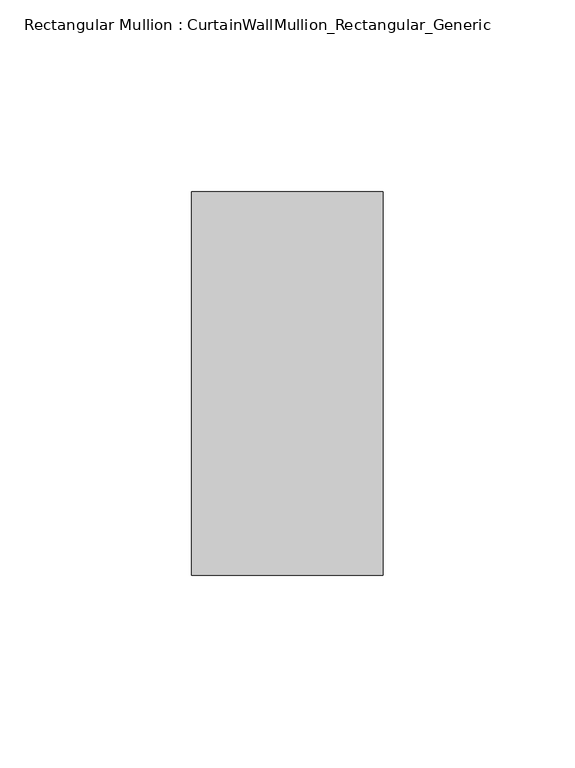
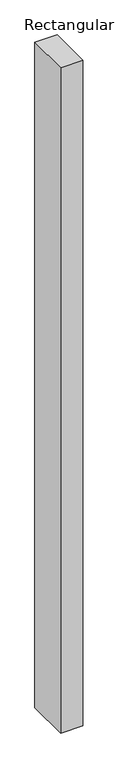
"""IFC4 building model written with IfcOpenShell, lengths in millimetres: member geometry, Rectangular Mullion : CurtainWallMullion_Rectangular_Generic."""

from ifc_helpers import new_model, si_unit, frame, origin, place, context, project, spatial, polyline, outline, extrude, source, transform, mapped, element, save


def rectangular_mullion_curtainwallmullion_rectangular_generic_58e5e5d2(model_context):
    return source(origin(), model_context, "Body", "SweptSolid", [
        extrude(outline(polyline([(0.0, 50.0), (0.0, -50.0), (-50.0, -50.0), (-50.0, 50.0), (0.0, 50.0)])), frame((0.0, 0.0, -1586.1111113), z_axis=(0.0, 0.0, 1.0), x_axis=(1.0, 0.0, 0.0)), (0.0, 0.0, 1.0), 1586.1111113),
    ])


if __name__ == "__main__":
    model = new_model("IFC4")
    model_context = context("Model", 3, world=origin())
    ifc_project = project(units=[si_unit("LENGTHUNIT", "METRE", prefix="MILLI")], contexts=[model_context])
    site = spatial("IfcSite", under=ifc_project)
    building = spatial("IfcBuilding", under=site)
    placement = place(None, origin())
    rectangular_mullion_curtainwallmullion_rectangular_generic_shape = rectangular_mullion_curtainwallmullion_rectangular_generic_58e5e5d2(model_context)
    element("IfcMember", 1, ObjectType="Rectangular Mullion : CurtainWallMullion_Rectangular_Generic", at=placement, inside=building, context=model_context, shape_type="MappedRepresentation", body=[
        mapped(rectangular_mullion_curtainwallmullion_rectangular_generic_shape, transform((0.0, 0.0, 0.0), x_axis=(1.0, 0.0, 0.0), y_axis=(0.0, 1.0, 0.0), z_axis=(0.0, 0.0, 1.0))),
    ])
    save(model, "model.ifc")
